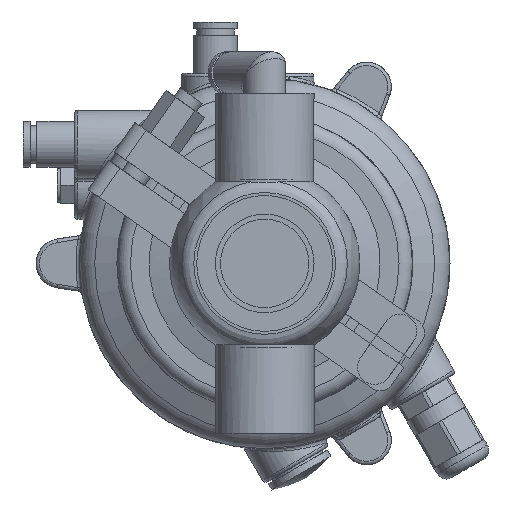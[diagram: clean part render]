
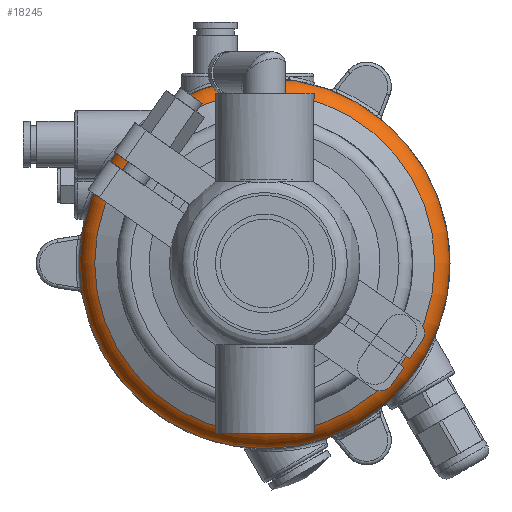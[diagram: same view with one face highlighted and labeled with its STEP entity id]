
A CAD part, front view. The second image highlights one B-rep face of the part: STEP entity #18245.
In plain terms, the highlighted toroidal (fillet/blend) face has major radius 46.5 mm and minor radius 8 mm.
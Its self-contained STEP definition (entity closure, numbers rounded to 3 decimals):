
#3530 = CARTESIAN_POINT ( 'NONE',  ( 0., 14.022, 0. ) ) ;
#9080 = AXIS2_PLACEMENT_3D ( 'NONE', #3530, #41854, #32963 ) ;
#9719 = ORIENTED_EDGE ( 'NONE', *, *, #19729, .F. ) ;
#11938 = VERTEX_POINT ( 'NONE', #20835 ) ;
#12639 = DIRECTION ( 'NONE',  ( 0., -1., 0. ) ) ;
#18245 = ADVANCED_FACE ( 'NONE', ( #20911, #25168 ), #22469, .T. ) ;
#19219 = DIRECTION ( 'NONE',  ( 0., -1., 0. ) ) ;
#19507 = EDGE_LOOP ( 'NONE', ( #9719 ) ) ;
#19729 = EDGE_CURVE ( 'NONE', #40601, #40601, #47096, .T. ) ;
#20835 = CARTESIAN_POINT ( 'NONE',  ( 0., 14.022, -54.5 ) ) ;
#20911 = FACE_OUTER_BOUND ( 'NONE', #54989, .T. ) ;
#22469 = TOROIDAL_SURFACE ( 'NONE', #53567, 46.5, 8. ) ;
#22934 = CARTESIAN_POINT ( 'NONE',  ( 0., 6.832, -50.007 ) ) ;
#24129 = DIRECTION ( 'NONE',  ( 0., 0., -1. ) ) ;
#25168 = FACE_OUTER_BOUND ( 'NONE', #19507, .T. ) ;
#30314 = DIRECTION ( 'NONE',  ( 0., 0., -1. ) ) ;
#32963 = DIRECTION ( 'NONE',  ( 0., 0., -1. ) ) ;
#38205 = CIRCLE ( 'NONE', #9080, 54.5 ) ;
#39369 = AXIS2_PLACEMENT_3D ( 'NONE', #57292, #19219, #24129 ) ;
#40601 = VERTEX_POINT ( 'NONE', #22934 ) ;
#41854 = DIRECTION ( 'NONE',  ( 0., -1., 0. ) ) ;
#47096 = CIRCLE ( 'NONE', #39369, 50.007 ) ;
#47360 = ORIENTED_EDGE ( 'NONE', *, *, #53801, .T. ) ;
#53567 = AXIS2_PLACEMENT_3D ( 'NONE', #58049, #12639, #30314 ) ;
#53801 = EDGE_CURVE ( 'NONE', #11938, #11938, #38205, .T. ) ;
#54989 = EDGE_LOOP ( 'NONE', ( #47360 ) ) ;
#57292 = CARTESIAN_POINT ( 'NONE',  ( 0., 6.832, 0. ) ) ;
#58049 = CARTESIAN_POINT ( 'NONE',  ( 0., 14.022, 0. ) ) ;
